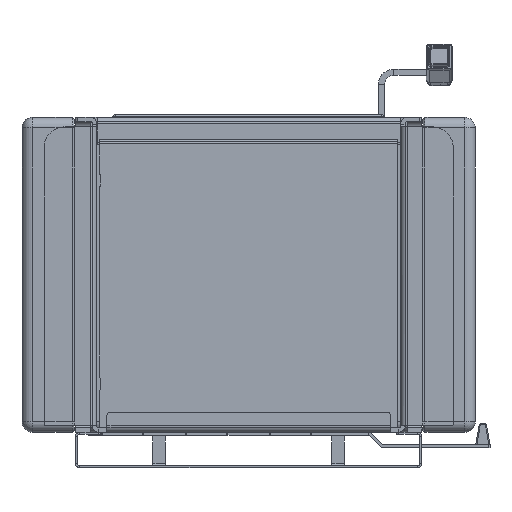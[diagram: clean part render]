
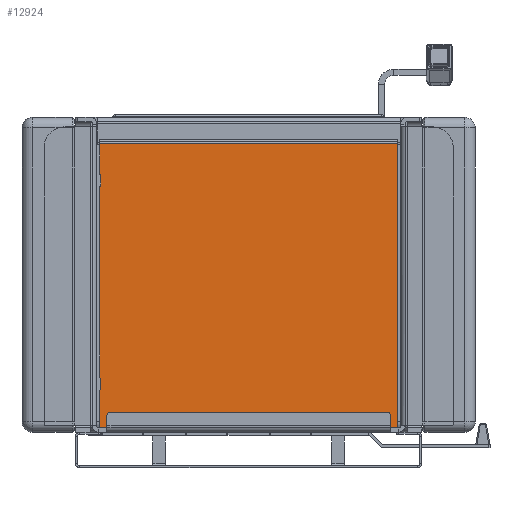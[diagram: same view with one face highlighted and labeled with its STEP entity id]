
A CAD part, front view. The second image highlights one B-rep face of the part: STEP entity #12924.
In plain terms, the highlighted planar face has unit normal (0, -1, 0).
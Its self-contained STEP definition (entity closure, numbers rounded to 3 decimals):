
#44 = EDGE_CURVE ( 'NONE', #37813, #32508, #40723, .T. ) ;
#439 = VECTOR ( 'NONE', #20141, 1000. ) ;
#802 = EDGE_CURVE ( 'NONE', #34920, #9675, #35644, .T. ) ;
#856 = ORIENTED_EDGE ( 'NONE', *, *, #44, .T. ) ;
#892 = CARTESIAN_POINT ( 'NONE',  ( 142., 226., 275. ) ) ;
#930 = DIRECTION ( 'NONE',  ( 0., -1., 0. ) ) ;
#1348 = EDGE_CURVE ( 'NONE', #2587, #15679, #6951, .T. ) ;
#1838 = ORIENTED_EDGE ( 'NONE', *, *, #802, .T. ) ;
#2214 = DIRECTION ( 'NONE',  ( 0., -1., 0. ) ) ;
#2371 = CARTESIAN_POINT ( 'NONE',  ( -142., 226., 246.5 ) ) ;
#2408 = CARTESIAN_POINT ( 'NONE',  ( -142., 226., 39.5 ) ) ;
#2587 = VERTEX_POINT ( 'NONE', #22153 ) ;
#2603 = ORIENTED_EDGE ( 'NONE', *, *, #39350, .T. ) ;
#3084 = DIRECTION ( 'NONE',  ( 0., 0., -1. ) ) ;
#4017 = LINE ( 'NONE', #22138, #27703 ) ;
#4622 = ORIENTED_EDGE ( 'NONE', *, *, #36710, .F. ) ;
#4659 = ORIENTED_EDGE ( 'NONE', *, *, #10149, .T. ) ;
#4679 = VECTOR ( 'NONE', #21630, 1000. ) ;
#5454 = VERTEX_POINT ( 'NONE', #10363 ) ;
#5700 = VERTEX_POINT ( 'NONE', #10786 ) ;
#5716 = VERTEX_POINT ( 'NONE', #14316 ) ;
#6166 = VECTOR ( 'NONE', #23574, 1000. ) ;
#6951 = LINE ( 'NONE', #892, #439 ) ;
#6955 = EDGE_CURVE ( 'NONE', #35033, #5700, #12617, .T. ) ;
#7618 = DIRECTION ( 'NONE',  ( 0., 0., 1. ) ) ;
#7987 = CARTESIAN_POINT ( 'NONE',  ( -141., 226., 233.5 ) ) ;
#8310 = CARTESIAN_POINT ( 'NONE',  ( -141., 226., 51.5 ) ) ;
#8819 = DIRECTION ( 'NONE',  ( 0., 0., -1. ) ) ;
#9116 = DIRECTION ( 'NONE',  ( -1., 0., 0. ) ) ;
#9675 = VERTEX_POINT ( 'NONE', #2408 ) ;
#9851 = CARTESIAN_POINT ( 'NONE',  ( 0., 226., 141.5 ) ) ;
#9869 = DIRECTION ( 'NONE',  ( 0., 0., -1. ) ) ;
#10149 = EDGE_CURVE ( 'NONE', #5716, #5700, #10207, .T. ) ;
#10207 = CIRCLE ( 'NONE', #26682, 1. ) ;
#10330 = DIRECTION ( 'NONE',  ( 0., 0., -1. ) ) ;
#10363 = CARTESIAN_POINT ( 'NONE',  ( -141., 226., 4. ) ) ;
#10520 = EDGE_CURVE ( 'NONE', #32141, #34920, #27836, .T. ) ;
#10786 = CARTESIAN_POINT ( 'NONE',  ( -142., 226., 233.5 ) ) ;
#11465 = EDGE_CURVE ( 'NONE', #37813, #15679, #12641, .T. ) ;
#11651 = DIRECTION ( 'NONE',  ( 0., 0., -1. ) ) ;
#12617 = LINE ( 'NONE', #23700, #35237 ) ;
#12641 = LINE ( 'NONE', #39781, #38850 ) ;
#12924 = ADVANCED_FACE ( 'NONE', ( #38221 ), #39116, .T. ) ;
#13973 = ORIENTED_EDGE ( 'NONE', *, *, #40296, .T. ) ;
#14316 = CARTESIAN_POINT ( 'NONE',  ( -141., 226., 234.5 ) ) ;
#14430 = EDGE_CURVE ( 'NONE', #35033, #32141, #29550, .T. ) ;
#14941 = VERTEX_POINT ( 'NONE', #24169 ) ;
#15125 = DIRECTION ( 'NONE',  ( 0., 0., -1. ) ) ;
#15595 = AXIS2_PLACEMENT_3D ( 'NONE', #15886, #22399, #3084 ) ;
#15679 = VERTEX_POINT ( 'NONE', #16800 ) ;
#15886 = CARTESIAN_POINT ( 'NONE',  ( -141., 226., 5. ) ) ;
#16800 = CARTESIAN_POINT ( 'NONE',  ( -142., 226., 275. ) ) ;
#17285 = ORIENTED_EDGE ( 'NONE', *, *, #6955, .F. ) ;
#17528 = ORIENTED_EDGE ( 'NONE', *, *, #10520, .T. ) ;
#19247 = CARTESIAN_POINT ( 'NONE',  ( -142., 226., 4. ) ) ;
#19291 = DIRECTION ( 'NONE',  ( 0., 0., 1. ) ) ;
#20141 = DIRECTION ( 'NONE',  ( -1., 0., 0. ) ) ;
#20210 = VECTOR ( 'NONE', #15125, 1000. ) ;
#21103 = CARTESIAN_POINT ( 'NONE',  ( -141., 226., 52.5 ) ) ;
#21630 = DIRECTION ( 'NONE',  ( 0., 0., -1. ) ) ;
#21688 = AXIS2_PLACEMENT_3D ( 'NONE', #21103, #2214, #8819 ) ;
#22138 = CARTESIAN_POINT ( 'NONE',  ( -142., 226., 279. ) ) ;
#22153 = CARTESIAN_POINT ( 'NONE',  ( 142., 226., 275. ) ) ;
#22200 = CARTESIAN_POINT ( 'NONE',  ( 142., 226., 4. ) ) ;
#22399 = DIRECTION ( 'NONE',  ( 0., -1., 0. ) ) ;
#23250 = DIRECTION ( 'NONE',  ( 0., -1., 0. ) ) ;
#23568 = AXIS2_PLACEMENT_3D ( 'NONE', #9851, #29139, #38704 ) ;
#23574 = DIRECTION ( 'NONE',  ( 0., 0., -1. ) ) ;
#23700 = CARTESIAN_POINT ( 'NONE',  ( -142., 226., 279. ) ) ;
#24169 = CARTESIAN_POINT ( 'NONE',  ( -142., 226., 5. ) ) ;
#24591 = CARTESIAN_POINT ( 'NONE',  ( -141., 226., 4. ) ) ;
#26095 = ORIENTED_EDGE ( 'NONE', *, *, #1348, .T. ) ;
#26682 = AXIS2_PLACEMENT_3D ( 'NONE', #7987, #39951, #11651 ) ;
#26701 = AXIS2_PLACEMENT_3D ( 'NONE', #35654, #930, #10330 ) ;
#27159 = DIRECTION ( 'NONE',  ( 0., 0., 1. ) ) ;
#27281 = LINE ( 'NONE', #24591, #20210 ) ;
#27366 = EDGE_LOOP ( 'NONE', ( #2603, #34304, #4622, #26095, #34025, #856, #13973, #4659, #17285, #34423, #17528, #1838, #39694 ) ) ;
#27691 = CARTESIAN_POINT ( 'NONE',  ( 142., 226., 279. ) ) ;
#27703 = VECTOR ( 'NONE', #19291, 1000. ) ;
#27733 = EDGE_CURVE ( 'NONE', #38239, #5454, #29263, .T. ) ;
#27836 = LINE ( 'NONE', #33504, #6166 ) ;
#28291 = EDGE_CURVE ( 'NONE', #14941, #9675, #4017, .T. ) ;
#28822 = CIRCLE ( 'NONE', #15595, 1. ) ;
#29139 = DIRECTION ( 'NONE',  ( 0., -1., 0. ) ) ;
#29263 = LINE ( 'NONE', #19247, #33265 ) ;
#29550 = CIRCLE ( 'NONE', #21688, 1. ) ;
#30207 = CARTESIAN_POINT ( 'NONE',  ( -141., 226., 40.5 ) ) ;
#31251 = CARTESIAN_POINT ( 'NONE',  ( -142., 226., 52.5 ) ) ;
#32141 = VERTEX_POINT ( 'NONE', #8310 ) ;
#32508 = VERTEX_POINT ( 'NONE', #40027 ) ;
#33265 = VECTOR ( 'NONE', #9116, 1000. ) ;
#33359 = LINE ( 'NONE', #27691, #4679 ) ;
#33504 = CARTESIAN_POINT ( 'NONE',  ( -141., 226., 4. ) ) ;
#34025 = ORIENTED_EDGE ( 'NONE', *, *, #11465, .F. ) ;
#34304 = ORIENTED_EDGE ( 'NONE', *, *, #27733, .F. ) ;
#34423 = ORIENTED_EDGE ( 'NONE', *, *, #14430, .T. ) ;
#34920 = VERTEX_POINT ( 'NONE', #30207 ) ;
#35033 = VERTEX_POINT ( 'NONE', #31251 ) ;
#35237 = VECTOR ( 'NONE', #7618, 1000. ) ;
#35644 = CIRCLE ( 'NONE', #40850, 1. ) ;
#35654 = CARTESIAN_POINT ( 'NONE',  ( -141., 226., 246.5 ) ) ;
#36710 = EDGE_CURVE ( 'NONE', #2587, #38239, #33359, .T. ) ;
#37813 = VERTEX_POINT ( 'NONE', #2371 ) ;
#38221 = FACE_OUTER_BOUND ( 'NONE', #27366, .T. ) ;
#38239 = VERTEX_POINT ( 'NONE', #22200 ) ;
#38704 = DIRECTION ( 'NONE',  ( 0., 0., -1. ) ) ;
#38719 = CARTESIAN_POINT ( 'NONE',  ( -141., 226., 39.5 ) ) ;
#38850 = VECTOR ( 'NONE', #27159, 1000. ) ;
#39116 = PLANE ( 'NONE',  #23568 ) ;
#39350 = EDGE_CURVE ( 'NONE', #14941, #5454, #28822, .T. ) ;
#39694 = ORIENTED_EDGE ( 'NONE', *, *, #28291, .F. ) ;
#39781 = CARTESIAN_POINT ( 'NONE',  ( -142., 226., 279. ) ) ;
#39951 = DIRECTION ( 'NONE',  ( 0., -1., 0. ) ) ;
#40027 = CARTESIAN_POINT ( 'NONE',  ( -141., 226., 245.5 ) ) ;
#40296 = EDGE_CURVE ( 'NONE', #32508, #5716, #27281, .T. ) ;
#40723 = CIRCLE ( 'NONE', #26701, 1. ) ;
#40850 = AXIS2_PLACEMENT_3D ( 'NONE', #38719, #23250, #9869 ) ;
